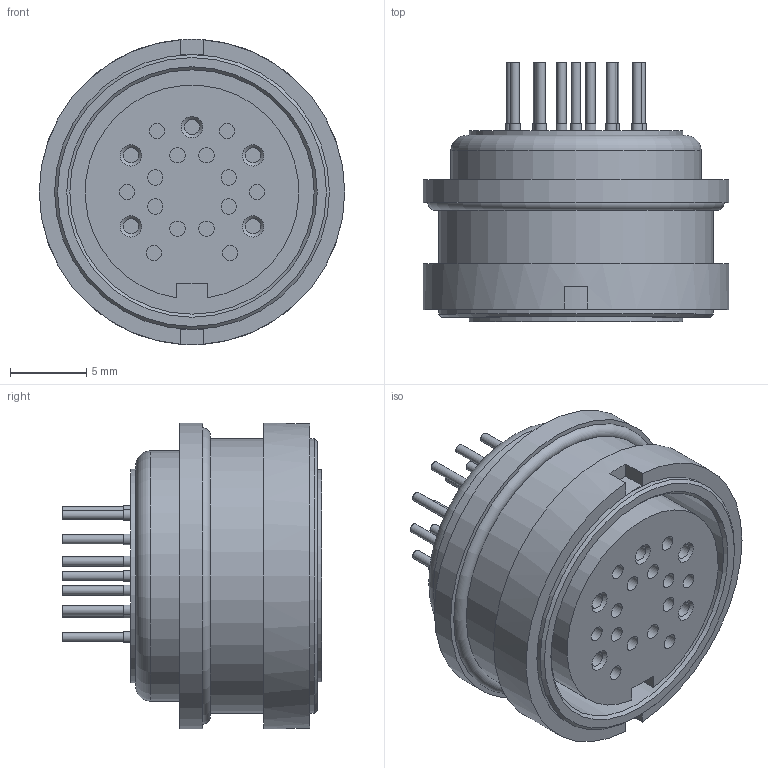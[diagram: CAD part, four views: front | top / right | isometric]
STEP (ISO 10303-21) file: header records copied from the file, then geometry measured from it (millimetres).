
FILE_DESCRIPTION((''),'2;1');
FILE_NAME('C:\TurckZip\BKFD_19-PCB.stp','2010-04-21T09:32:19',('IKOROL'),(''),'Autodesk Inventor 2009','Autodesk Inventor 2009','');
FILE_SCHEMA(('CONFIG_CONTROL_DESIGN'));
Length unit declared in the file: millimetre
Products named in the file (1): Part15
Bounding box: 20 x 17 x 20 mm (x, y, z)
Volume: 2795.2 mm3; surface area: 2855.3 mm2
Topology: 1 solids, 1 shells, 151 faces, 246 edges, 161 vertices
Faces by surface type: plane 75, cylinder 67, cone 7, torus 2
Full cylindrical faces by diameter (mm): 0.6 x19, 0.7 x19, 1 x19, 14 x1, 16 x1, 16.4 x1, 18 x2, 20 x2
Entity records: 3301 total; most frequent: DIRECTION 622, CARTESIAN_POINT 484, ORIENTED_EDGE 344, AXIS2_PLACEMENT_3D 298, EDGE_LOOP 288, EDGE_CURVE 172, VERTEX_POINT 160, FACE_OUTER_BOUND 151
